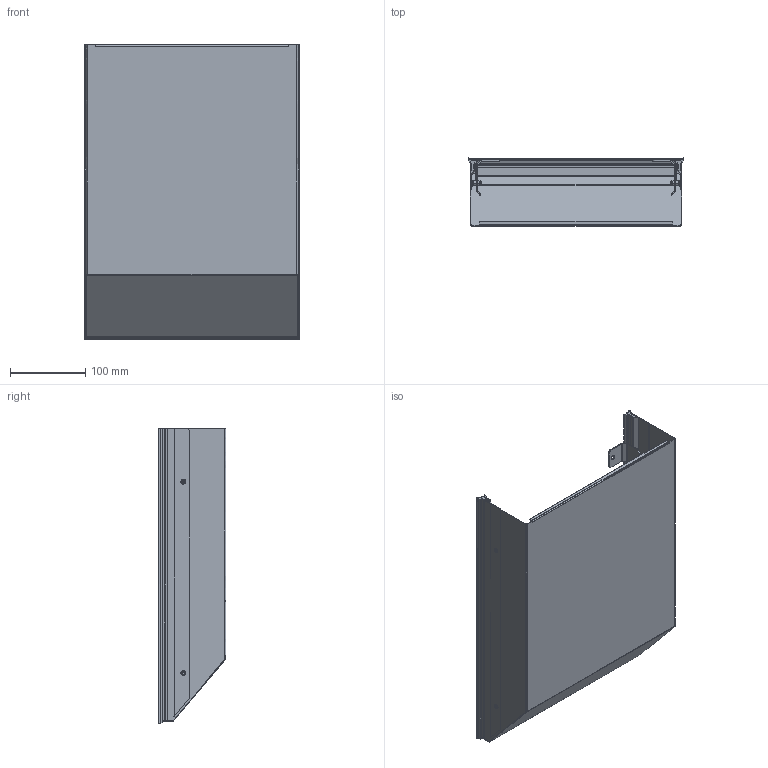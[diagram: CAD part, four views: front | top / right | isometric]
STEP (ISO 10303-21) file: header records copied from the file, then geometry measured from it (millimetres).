
FILE_DESCRIPTION(/* description */ (''),/* implementation_level */ '2;1');
FILE_NAME(/* name */ 'SSC-15A',/* time_stamp */ '2020-03-11T10:23:33+01:00',/* author */ (''),/* organization */ (''),/* preprocessor_version */ 'ST-DEVELOPER v14',/* originating_system */ '',/* authorisation */ '');
FILE_SCHEMA (('CONFIG_CONTROL_DESIGN'));
Length unit declared in the file: millimetre
Products named in the file (1): Document
Bounding box: 287.4 x 90.56 x 392.7 mm (x, y, z)
Volume: 49414 mm3; surface area: 577189.6 mm2
Topology: 7 solids, 11 shells, 538 faces, 1432 edges, 859 vertices
Faces by surface type: bspline 331, plane 207
Entity records: 20570 total; most frequent: CARTESIAN_POINT 12137, ORIENTED_EDGE 2730, EDGE_CURVE 1424, B_SPLINE_CURVE_WITH_KNOTS 976, VERTEX_POINT 859, EDGE_LOOP 578, ADVANCED_FACE 538, FACE_OUTER_BOUND 538
